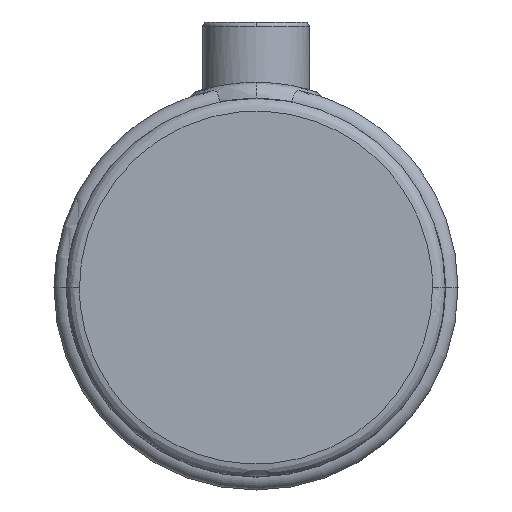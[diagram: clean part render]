
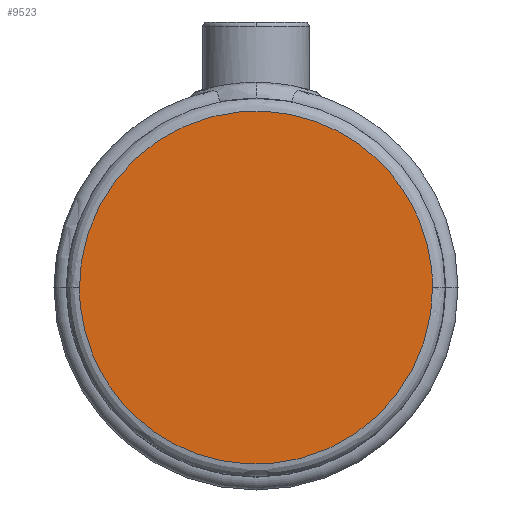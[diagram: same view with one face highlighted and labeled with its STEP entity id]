
A CAD part, top view. The second image highlights one B-rep face of the part: STEP entity #9523.
In plain terms, the highlighted planar face has unit normal (0, 0, 1).
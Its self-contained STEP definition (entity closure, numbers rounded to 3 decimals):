
#597 = DIRECTION ( 'NONE',  ( 0., 0., 1. ) ) ;
#1334 = CARTESIAN_POINT ( 'NONE',  ( 41.45, 82.9, 50. ) ) ;
#2480 = CARTESIAN_POINT ( 'NONE',  ( 41.45, 0., 50. ) ) ;
#2702 = CARTESIAN_POINT ( 'NONE',  ( -41.45, 0., 50. ) ) ;
#2705 = FACE_OUTER_BOUND ( 'NONE', #4104, .T. ) ;
#2920 = ORIENTED_EDGE ( 'NONE', *, *, #7344, .F. ) ;
#3357 = VERTEX_POINT ( 'NONE', #2702 ) ;
#4089 = CARTESIAN_POINT ( 'NONE',  ( 41.45, -82.9, 50. ) ) ;
#4104 = EDGE_LOOP ( 'NONE', ( #9401, #2920 ) ) ;
#4509 = AXIS2_PLACEMENT_3D ( 'NONE', #5414, #597, #6239 ) ;
#4914 = CARTESIAN_POINT ( 'NONE',  ( -41.45, 0., 50. ) ) ;
#5335 = CARTESIAN_POINT ( 'NONE',  ( -41.45, 0., 50. ) ) ;
#5384 = PLANE ( 'NONE',  #4509 ) ;
#5414 = CARTESIAN_POINT ( 'NONE',  ( 0., 22.225, 50. ) ) ;
#6239 = DIRECTION ( 'NONE',  ( 0., -1., 0. ) ) ;
#6871 =( BOUNDED_CURVE ( )  B_SPLINE_CURVE ( 3, ( #2480, #4089, #9784, #4914 ),
 .UNSPECIFIED., .F., .T. ) 
 B_SPLINE_CURVE_WITH_KNOTS ( ( 4, 4 ),
 ( 0.25, 0.75 ),
 .UNSPECIFIED. ) 
 CURVE ( )  GEOMETRIC_REPRESENTATION_ITEM ( )  RATIONAL_B_SPLINE_CURVE ( ( 1., 0.333, 0.333, 1. ) ) 
 REPRESENTATION_ITEM ( '' )  );
#6981 = CARTESIAN_POINT ( 'NONE',  ( 41.45, 0., 50. ) ) ;
#7197 = VERTEX_POINT ( 'NONE', #8527 ) ;
#7344 = EDGE_CURVE ( 'NONE', #3357, #7197, #8456, .T. ) ;
#8456 =( BOUNDED_CURVE ( )  B_SPLINE_CURVE ( 3, ( #5335, #10216, #1334, #6981 ),
 .UNSPECIFIED., .F., .T. ) 
 B_SPLINE_CURVE_WITH_KNOTS ( ( 4, 4 ),
 ( 0.75, 1.25 ),
 .UNSPECIFIED. ) 
 CURVE ( )  GEOMETRIC_REPRESENTATION_ITEM ( )  RATIONAL_B_SPLINE_CURVE ( ( 1., 0.333, 0.333, 1. ) ) 
 REPRESENTATION_ITEM ( '' )  );
#8527 = CARTESIAN_POINT ( 'NONE',  ( 41.45, 0., 50. ) ) ;
#9307 = EDGE_CURVE ( 'NONE', #7197, #3357, #6871, .T. ) ;
#9401 = ORIENTED_EDGE ( 'NONE', *, *, #9307, .F. ) ;
#9523 = ADVANCED_FACE ( 'NONE', ( #2705 ), #5384, .T. ) ;
#9784 = CARTESIAN_POINT ( 'NONE',  ( -41.45, -82.9, 50. ) ) ;
#10216 = CARTESIAN_POINT ( 'NONE',  ( -41.45, 82.9, 50. ) ) ;
